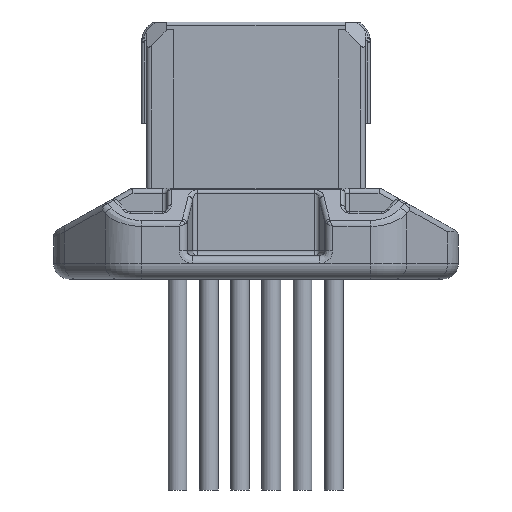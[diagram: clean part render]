
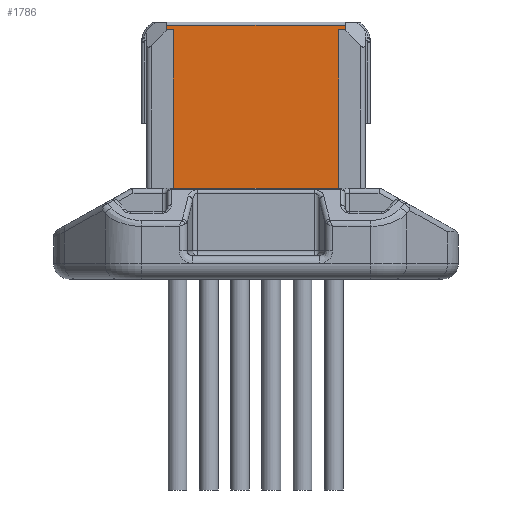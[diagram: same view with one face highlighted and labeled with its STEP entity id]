
A CAD part, front view. The second image highlights one B-rep face of the part: STEP entity #1786.
In plain terms, the highlighted planar face has unit normal (0, -1, 0).
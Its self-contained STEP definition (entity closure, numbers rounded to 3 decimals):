
#248 = CARTESIAN_POINT ( 'NONE',  ( 7., 0., -14.95 ) ) ;
#922 = LINE ( 'NONE', #15433, #945 ) ;
#945 = VECTOR ( 'NONE', #15420, 1000. ) ;
#1063 = PLANE ( 'NONE',  #16170 ) ;
#1333 = DIRECTION ( 'NONE',  ( 0., -1., 0. ) ) ;
#1497 = CARTESIAN_POINT ( 'NONE',  ( -5.7, 0., -0.5 ) ) ;
#1500 = DIRECTION ( 'NONE',  ( 1., 0., 0. ) ) ;
#1786 = ADVANCED_FACE ( 'NONE', ( #5974 ), #1063, .T. ) ;
#1823 = ORIENTED_EDGE ( 'NONE', *, *, #13635, .T. ) ;
#2271 = VECTOR ( 'NONE', #2706, 1000. ) ;
#2706 = DIRECTION ( 'NONE',  ( 0., 0., -1. ) ) ;
#2769 = DIRECTION ( 'NONE',  ( 0., 0., 1. ) ) ;
#2962 = VECTOR ( 'NONE', #18084, 1000. ) ;
#3416 = EDGE_CURVE ( 'NONE', #7509, #6352, #922, .T. ) ;
#4132 = VECTOR ( 'NONE', #2769, 1000. ) ;
#4185 = LINE ( 'NONE', #8758, #4132 ) ;
#4705 = LINE ( 'NONE', #12867, #7627 ) ;
#4739 = ORIENTED_EDGE ( 'NONE', *, *, #11591, .T. ) ;
#5930 = CARTESIAN_POINT ( 'NONE',  ( 5.7, 0., -0.5 ) ) ;
#5974 = FACE_OUTER_BOUND ( 'NONE', #8211, .T. ) ;
#6352 = VERTEX_POINT ( 'NONE', #5930 ) ;
#6965 = EDGE_CURVE ( 'NONE', #16900, #10995, #9600, .T. ) ;
#7094 = CARTESIAN_POINT ( 'NONE',  ( -5.7, 0., -0.5 ) ) ;
#7509 = VERTEX_POINT ( 'NONE', #13469 ) ;
#7570 = VECTOR ( 'NONE', #14878, 1000. ) ;
#7577 = EDGE_CURVE ( 'NONE', #10096, #9674, #7643, .T. ) ;
#7580 = DIRECTION ( 'NONE',  ( -1., 0., 0. ) ) ;
#7627 = VECTOR ( 'NONE', #13054, 1000. ) ;
#7643 = LINE ( 'NONE', #1497, #7570 ) ;
#7929 = VERTEX_POINT ( 'NONE', #11186 ) ;
#8119 = CARTESIAN_POINT ( 'NONE',  ( 5.7, 0., -0.5 ) ) ;
#8211 = EDGE_LOOP ( 'NONE', ( #11489, #8784, #4739, #15961, #10800, #1823, #18271, #10739 ) ) ;
#8551 = LINE ( 'NONE', #8119, #2962 ) ;
#8758 = CARTESIAN_POINT ( 'NONE',  ( 5.3, 0., -14.95 ) ) ;
#8784 = ORIENTED_EDGE ( 'NONE', *, *, #18493, .T. ) ;
#8854 = CARTESIAN_POINT ( 'NONE',  ( -5.7, 0., -6.05 ) ) ;
#9133 = LINE ( 'NONE', #8854, #2271 ) ;
#9562 = VECTOR ( 'NONE', #7580, 1000. ) ;
#9600 = LINE ( 'NONE', #11739, #9562 ) ;
#9674 = VERTEX_POINT ( 'NONE', #7094 ) ;
#10096 = VERTEX_POINT ( 'NONE', #13638 ) ;
#10739 = ORIENTED_EDGE ( 'NONE', *, *, #12746, .F. ) ;
#10800 = ORIENTED_EDGE ( 'NONE', *, *, #12700, .T. ) ;
#10995 = VERTEX_POINT ( 'NONE', #14404 ) ;
#11071 = CARTESIAN_POINT ( 'NONE',  ( 5.3, 0., -10.65 ) ) ;
#11186 = CARTESIAN_POINT ( 'NONE',  ( -5.7, 0., -0.2 ) ) ;
#11489 = ORIENTED_EDGE ( 'NONE', *, *, #6965, .F. ) ;
#11591 = EDGE_CURVE ( 'NONE', #16009, #6352, #8551, .T. ) ;
#11739 = CARTESIAN_POINT ( 'NONE',  ( 7., 0., -10.65 ) ) ;
#12700 = EDGE_CURVE ( 'NONE', #7509, #7929, #4705, .T. ) ;
#12746 = EDGE_CURVE ( 'NONE', #10995, #10096, #17056, .T. ) ;
#12867 = CARTESIAN_POINT ( 'NONE',  ( -2.7, 0., -0.2 ) ) ;
#13054 = DIRECTION ( 'NONE',  ( -1., 0., 0. ) ) ;
#13243 = VECTOR ( 'NONE', #15230, 1000. ) ;
#13469 = CARTESIAN_POINT ( 'NONE',  ( 5.7, 0., -0.2 ) ) ;
#13635 = EDGE_CURVE ( 'NONE', #7929, #9674, #9133, .T. ) ;
#13638 = CARTESIAN_POINT ( 'NONE',  ( -5.3, 0., -0.5 ) ) ;
#14404 = CARTESIAN_POINT ( 'NONE',  ( -5.3, 0., -10.65 ) ) ;
#14878 = DIRECTION ( 'NONE',  ( -1., 0., 0. ) ) ;
#15127 = CARTESIAN_POINT ( 'NONE',  ( -5.3, 0., -14.95 ) ) ;
#15230 = DIRECTION ( 'NONE',  ( 0., 0., 1. ) ) ;
#15420 = DIRECTION ( 'NONE',  ( 0., 0., -1. ) ) ;
#15433 = CARTESIAN_POINT ( 'NONE',  ( 5.7, 0., -6.05 ) ) ;
#15961 = ORIENTED_EDGE ( 'NONE', *, *, #3416, .F. ) ;
#16009 = VERTEX_POINT ( 'NONE', #16517 ) ;
#16170 = AXIS2_PLACEMENT_3D ( 'NONE', #248, #1333, #1500 ) ;
#16517 = CARTESIAN_POINT ( 'NONE',  ( 5.3, 0., -0.5 ) ) ;
#16900 = VERTEX_POINT ( 'NONE', #11071 ) ;
#17056 = LINE ( 'NONE', #15127, #13243 ) ;
#18084 = DIRECTION ( 'NONE',  ( 1., 0., 0. ) ) ;
#18271 = ORIENTED_EDGE ( 'NONE', *, *, #7577, .F. ) ;
#18493 = EDGE_CURVE ( 'NONE', #16900, #16009, #4185, .T. ) ;
